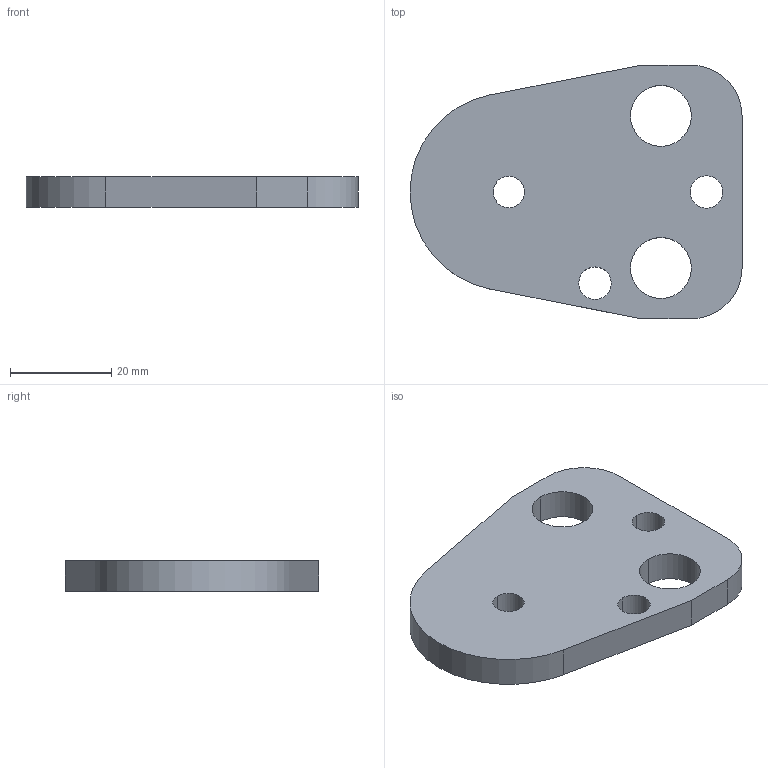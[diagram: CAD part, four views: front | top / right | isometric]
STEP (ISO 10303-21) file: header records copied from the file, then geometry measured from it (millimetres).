
FILE_DESCRIPTION(/* description */ (''),/* implementation_level */ '2;1');
FILE_NAME(/* name */ '3d_bpc25-6_03427_r00.stp',/* time_stamp */ '2011-01-10T14:17:10+09:00',/* author */ ('MISUMI'),/* organization */ (''),/* preprocessor_version */ 'ST-DEVELOPER v11',/* originating_system */ 'UGS - NX 5.0',/* authorisation */ '');
FILE_SCHEMA (('CONFIG_CONTROL_DESIGN'));
Length unit declared in the file: millimetre
Products named in the file (1): 3d_bpc25-6_03427_r00
Bounding box: 65.5 x 50 x 6 mm (x, y, z)
Volume: 14408.1 mm3; surface area: 6787.9 mm2
Topology: 1 solids, 1 shells, 20 faces, 54 edges, 36 vertices
Faces by surface type: cylinder 13, plane 7
Entity records: 750 total; most frequent: DIRECTION 122, CARTESIAN_POINT 111, ORIENTED_EDGE 108, EDGE_CURVE 54, AXIS2_PLACEMENT_3D 47, VERTEX_POINT 36, EDGE_LOOP 30, LINE 28
